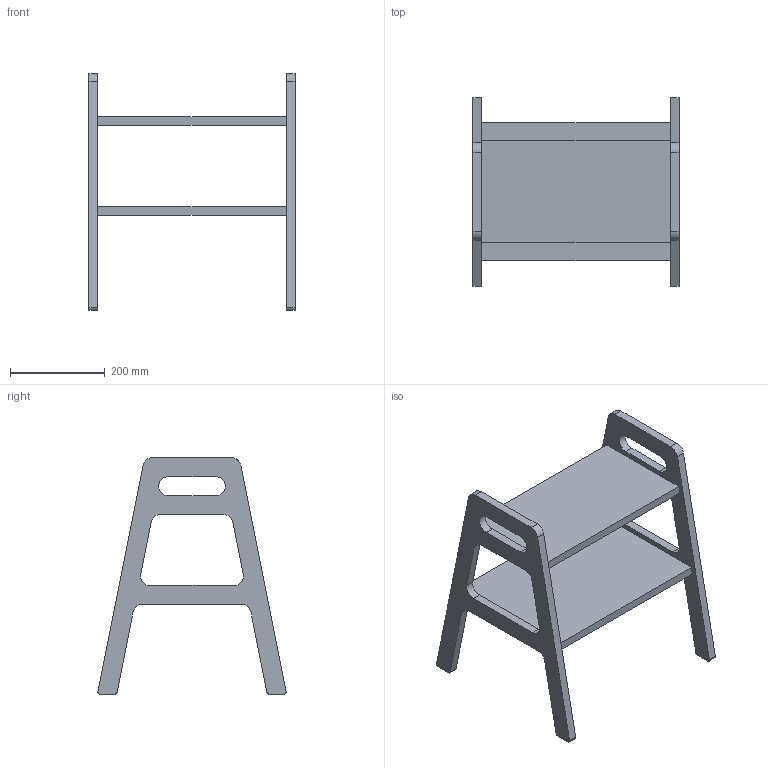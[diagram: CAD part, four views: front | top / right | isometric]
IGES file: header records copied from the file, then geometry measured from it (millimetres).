
Global section: file name: step stool v3 v26; native system: unknown; preprocessor: unknown; author: unknown; organization: unknown; date: 20230704.115148; units: millimetre
Bounding box: 436 x 397.79 x 500 mm (x, y, z)
Volume: 5896690.7 mm3; surface area: 867108.5 mm2
Topology: 4 solids, 4 shells, 92 faces, 240 edges, 160 vertices
Faces by surface type: bspline 92
